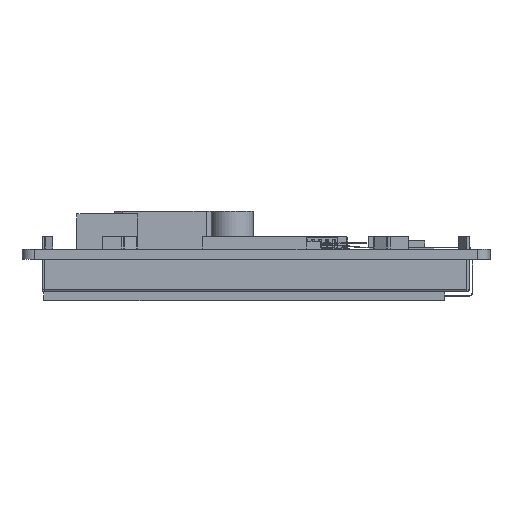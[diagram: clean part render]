
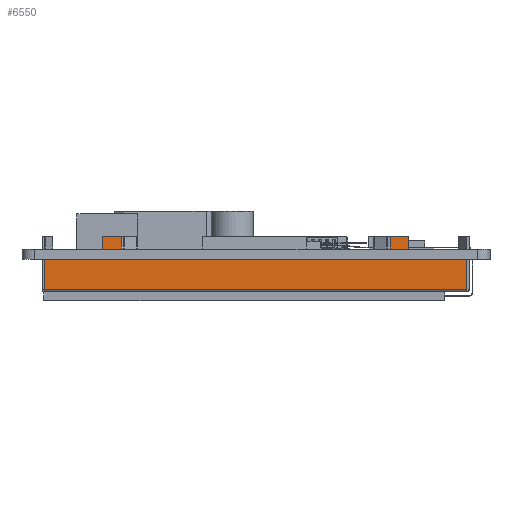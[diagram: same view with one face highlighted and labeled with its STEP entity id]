
A CAD part, left-side view. The second image highlights one B-rep face of the part: STEP entity #6550.
In plain terms, the highlighted planar face has unit normal (-1, 0, 0).
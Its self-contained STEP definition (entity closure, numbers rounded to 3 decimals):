
#4303=PLANE('',#51237);
#6550=ADVANCED_FACE('',(#9285),#4303,.F.);
#9285=FACE_OUTER_BOUND('',#11603,.T.);
#11603=EDGE_LOOP('',(#24387,#24388,#24389,#24390,#24391,#24392,#24393,#24394,
#24395,#24396,#24397,#24398,#24399,#24400,#24401,#24402));
#24387=ORIENTED_EDGE('',*,*,#36251,.T.);
#24388=ORIENTED_EDGE('',*,*,#36252,.F.);
#24389=ORIENTED_EDGE('',*,*,#36253,.F.);
#24390=ORIENTED_EDGE('',*,*,#36254,.T.);
#24391=ORIENTED_EDGE('',*,*,#36255,.T.);
#24392=ORIENTED_EDGE('',*,*,#36256,.T.);
#24393=ORIENTED_EDGE('',*,*,#36249,.T.);
#24394=ORIENTED_EDGE('',*,*,#36257,.F.);
#24395=ORIENTED_EDGE('',*,*,#36258,.T.);
#24396=ORIENTED_EDGE('',*,*,#36259,.F.);
#24397=ORIENTED_EDGE('',*,*,#36260,.F.);
#24398=ORIENTED_EDGE('',*,*,#36261,.T.);
#24399=ORIENTED_EDGE('',*,*,#36243,.T.);
#24400=ORIENTED_EDGE('',*,*,#36262,.F.);
#24401=ORIENTED_EDGE('',*,*,#36263,.F.);
#24402=ORIENTED_EDGE('',*,*,#36264,.T.);
#29900=VERTEX_POINT('',#75648);
#29901=VERTEX_POINT('',#75649);
#29906=VERTEX_POINT('',#75660);
#29907=VERTEX_POINT('',#75662);
#29908=VERTEX_POINT('',#75666);
#29909=VERTEX_POINT('',#75667);
#29910=VERTEX_POINT('',#75669);
#29911=VERTEX_POINT('',#75671);
#29912=VERTEX_POINT('',#75673);
#29913=VERTEX_POINT('',#75675);
#29914=VERTEX_POINT('',#75678);
#29915=VERTEX_POINT('',#75680);
#29916=VERTEX_POINT('',#75682);
#29917=VERTEX_POINT('',#75684);
#29918=VERTEX_POINT('',#75687);
#29919=VERTEX_POINT('',#75689);
#36243=EDGE_CURVE('',#29900,#29901,#42071,.T.);
#36249=EDGE_CURVE('',#29907,#29906,#42077,.T.);
#36251=EDGE_CURVE('',#29908,#29909,#42079,.T.);
#36252=EDGE_CURVE('',#29910,#29909,#42080,.T.);
#36253=EDGE_CURVE('',#29911,#29910,#42081,.T.);
#36254=EDGE_CURVE('',#29911,#29912,#42082,.T.);
#36255=EDGE_CURVE('',#29912,#29913,#42083,.T.);
#36256=EDGE_CURVE('',#29913,#29907,#42084,.T.);
#36257=EDGE_CURVE('',#29914,#29906,#42085,.T.);
#36258=EDGE_CURVE('',#29914,#29915,#42086,.T.);
#36259=EDGE_CURVE('',#29916,#29915,#42087,.T.);
#36260=EDGE_CURVE('',#29917,#29916,#42088,.T.);
#36261=EDGE_CURVE('',#29917,#29900,#42089,.T.);
#36262=EDGE_CURVE('',#29918,#29901,#42090,.T.);
#36263=EDGE_CURVE('',#29919,#29918,#42091,.T.);
#36264=EDGE_CURVE('',#29919,#29908,#42092,.T.);
#42071=LINE('',#75647,#47775);
#42077=LINE('',#75661,#47781);
#42079=LINE('',#75665,#47783);
#42080=LINE('',#75668,#47784);
#42081=LINE('',#75670,#47785);
#42082=LINE('',#75672,#47786);
#42083=LINE('',#75674,#47787);
#42084=LINE('',#75676,#47788);
#42085=LINE('',#75677,#47789);
#42086=LINE('',#75679,#47790);
#42087=LINE('',#75681,#47791);
#42088=LINE('',#75683,#47792);
#42089=LINE('',#75685,#47793);
#42090=LINE('',#75686,#47794);
#42091=LINE('',#75688,#47795);
#42092=LINE('',#75690,#47796);
#47775=VECTOR('',#62074,1.);
#47781=VECTOR('',#62082,1.);
#47783=VECTOR('',#62086,1.);
#47784=VECTOR('',#62087,1.);
#47785=VECTOR('',#62088,1.);
#47786=VECTOR('',#62089,1.);
#47787=VECTOR('',#62090,1.);
#47788=VECTOR('',#62091,1.);
#47789=VECTOR('',#62092,1.);
#47790=VECTOR('',#62093,1.);
#47791=VECTOR('',#62094,1.);
#47792=VECTOR('',#62095,1.);
#47793=VECTOR('',#62096,1.);
#47794=VECTOR('',#62097,1.);
#47795=VECTOR('',#62098,1.);
#47796=VECTOR('',#62099,1.);
#51237=AXIS2_PLACEMENT_3D('',#75691,#62100,#62101);
#62074=DIRECTION('',(0.,1.,0.));
#62082=DIRECTION('',(0.,1.,0.));
#62086=DIRECTION('',(0.,1.,0.));
#62087=DIRECTION('',(0.,0.,-1.));
#62088=DIRECTION('',(0.,-1.,0.));
#62089=DIRECTION('',(0.,0.,-1.));
#62090=DIRECTION('',(0.,1.,0.));
#62091=DIRECTION('',(0.,0.,-1.));
#62092=DIRECTION('',(0.,0.,-1.));
#62093=DIRECTION('',(0.,-1.,0.));
#62094=DIRECTION('',(0.,0.,-1.));
#62095=DIRECTION('',(0.,-1.,0.));
#62096=DIRECTION('',(0.,0.,-1.));
#62097=DIRECTION('',(0.,0.,1.));
#62098=DIRECTION('',(0.,1.,0.));
#62099=DIRECTION('',(0.,0.,1.));
#62100=DIRECTION('',(1.,0.,0.));
#62101=DIRECTION('',(0.,-1.,0.));
#75647=CARTESIAN_POINT('',(67.65,-14.395,-1.6));
#75648=CARTESIAN_POINT('',(67.65,43.765,-1.6));
#75649=CARTESIAN_POINT('',(67.65,53.005,-1.6));
#75660=CARTESIAN_POINT('',(67.65,40.765,-1.6));
#75661=CARTESIAN_POINT('',(67.65,-14.395,-1.6));
#75662=CARTESIAN_POINT('',(67.65,-2.155,-1.6));
#75665=CARTESIAN_POINT('',(67.65,-14.395,-1.6));
#75666=CARTESIAN_POINT('',(67.65,-14.395,-1.6));
#75667=CARTESIAN_POINT('',(67.65,-5.155,-1.6));
#75668=CARTESIAN_POINT('',(67.65,-5.155,0.));
#75669=CARTESIAN_POINT('',(67.65,-5.155,2.));
#75670=CARTESIAN_POINT('',(67.65,-2.19,2.));
#75671=CARTESIAN_POINT('',(67.65,-2.19,2.));
#75672=CARTESIAN_POINT('',(67.65,-2.19,2.));
#75673=CARTESIAN_POINT('',(67.65,-2.19,0.));
#75674=CARTESIAN_POINT('',(67.65,-5.155,0.));
#75675=CARTESIAN_POINT('',(67.65,-2.155,0.));
#75676=CARTESIAN_POINT('',(67.65,-2.155,0.));
#75677=CARTESIAN_POINT('',(67.65,40.765,0.));
#75678=CARTESIAN_POINT('',(67.65,40.765,0.));
#75679=CARTESIAN_POINT('',(67.65,43.765,0.));
#75680=CARTESIAN_POINT('',(67.65,40.754,0.));
#75681=CARTESIAN_POINT('',(67.65,40.754,2.));
#75682=CARTESIAN_POINT('',(67.65,40.754,2.));
#75683=CARTESIAN_POINT('',(67.65,43.765,2.));
#75684=CARTESIAN_POINT('',(67.65,43.765,2.));
#75685=CARTESIAN_POINT('',(67.65,43.765,0.));
#75686=CARTESIAN_POINT('',(67.65,53.005,-6.4));
#75687=CARTESIAN_POINT('',(67.65,53.005,-6.4));
#75688=CARTESIAN_POINT('',(67.65,-14.395,-6.4));
#75689=CARTESIAN_POINT('',(67.65,-14.395,-6.4));
#75690=CARTESIAN_POINT('',(67.65,-14.395,-6.4));
#75691=CARTESIAN_POINT('',(67.65,-14.395,-6.4));
